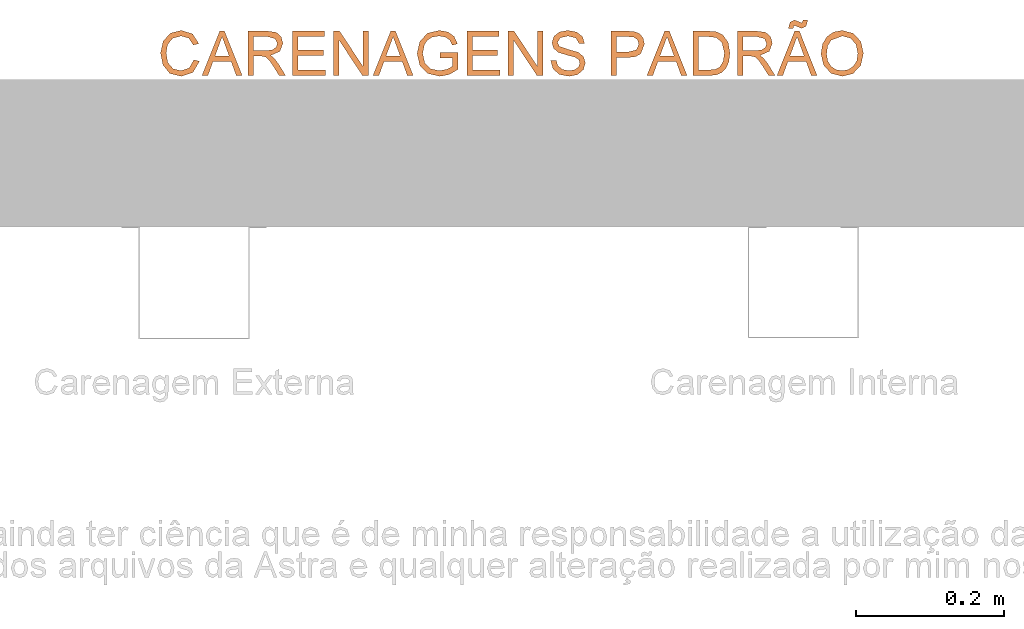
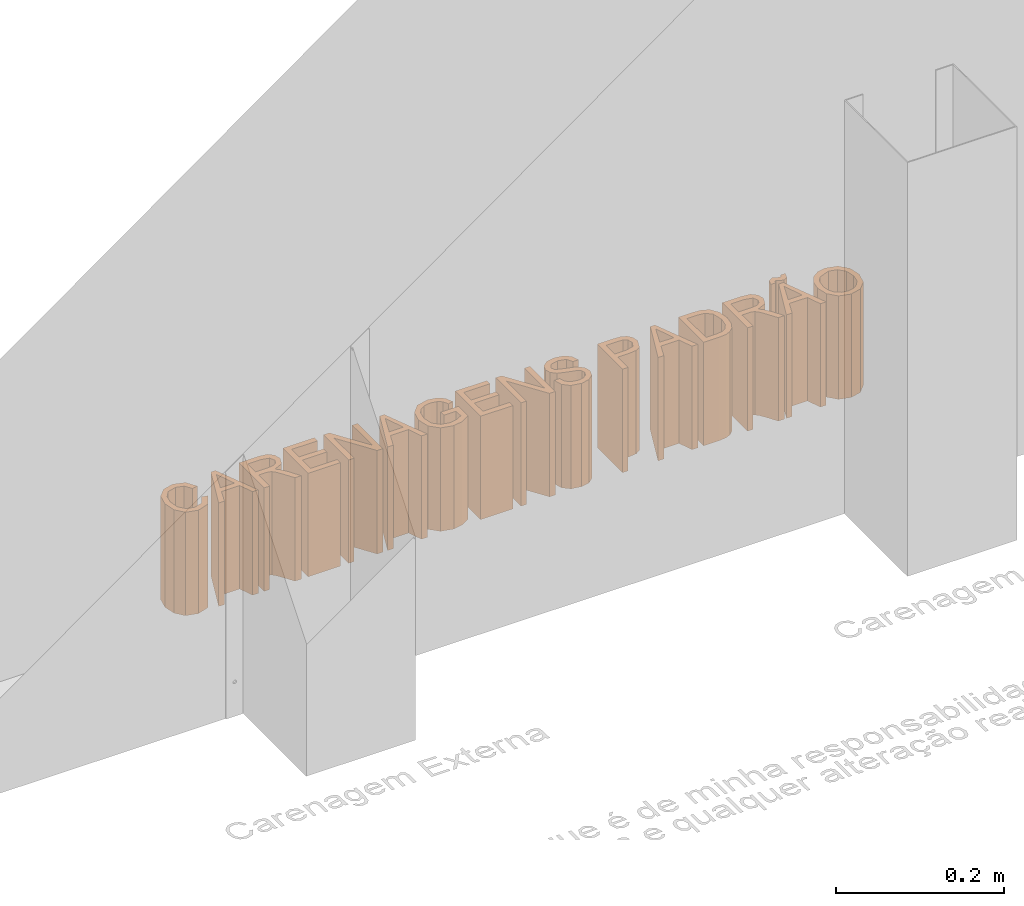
# One storey, part 3 of 5: 1 proxy.
"""IFC2X3 building model written with IfcOpenShell, lengths in millimetres."""

import ifcopenshell
import ifcopenshell.guid

model = None  # the IFC model being written
_history = None  # IfcOwnerHistory: only IFC2X3 demands one
_inside = {}  # id of a spatial element -> (the spatial element, [elements in it])
_under = {}  # id of a project, library or spatial element -> (it, [spatial elements below it])
_declared = {}  # id of a project -> (the project, [libraries it declares])
_typed = {}  # id of a type object -> (the type object, [elements of that type])
_made_of = {}  # id of a material, layer set ... -> (it, [elements and type objects made of it])


def new_model(schema):
    """Start an empty IFC model of exactly this schema.

    Asked for "IFC4X3", IfcOpenShell would pick the latest addendum, in which some entities
    have other attributes; the version numbers below select the first issue.
    IFC2X3 requires an IfcOwnerHistory on every rooted entity: one is made here for all.
    """
    global model, _history
    if schema == "IFC4X3":
        model = ifcopenshell.file(schema_version=(4, 3, 0, 0))
    else:
        model = ifcopenshell.file(schema=schema)
    _inside.clear()
    _under.clear()
    _declared.clear()
    _typed.clear()
    _made_of.clear()
    _history = None
    if model.schema == "IFC2X3":
        org = make("IfcOrganization", Name="unknown")
        user = make(
            "IfcPersonAndOrganization",
            ThePerson=make("IfcPerson", FamilyName="unknown"),
            TheOrganization=org,
        )
        app = make(
            "IfcApplication",
            ApplicationDeveloper=org,
            Version="unknown",
            ApplicationFullName="unknown",
            ApplicationIdentifier="unknown",
        )
        _history = make(
            "IfcOwnerHistory",
            OwningUser=user,
            OwningApplication=app,
            ChangeAction="ADDED",
            CreationDate=0,
        )
    return model


def make(cls, **values):
    """One entity of the class cls with the attributes given. An attribute that is None is left unset."""
    return model.create_entity(
        cls, **{name: value for name, value in values.items() if value is not None}
    )


def entity(cls, *values):
    """Any entity or typed value of the class cls, its attributes in the order of the schema. None: left unset."""
    e = model.create_entity(cls)
    for i, value in enumerate(values):
        if value is not None:
            e[i] = value
    return e


def rooted(cls, **values):
    """An entity with a GlobalId (a new one), such as an element, a storey or a relation."""
    return make(cls, GlobalId=ifcopenshell.guid.new(), OwnerHistory=_history, **values)


def si_unit(unit_type, name, prefix=None):
    """IfcSIUnit, for example si_unit("LENGTHUNIT", "METRE", prefix="MILLI")."""
    return make("IfcSIUnit", UnitType=unit_type, Prefix=prefix, Name=name)


def converted_unit(unit_type, name, factor, base, dimensions=None, offset=None):
    """IfcConversionBasedUnit, such as the inch: factor (a typed value) times the base unit."""
    return make(
        "IfcConversionBasedUnit"
        if offset is None
        else "IfcConversionBasedUnitWithOffset",
        ConversionOffset=offset,
        Dimensions=None
        if dimensions is None
        else entity("IfcDimensionalExponents", *dimensions),
        UnitType=unit_type,
        Name=name,
        ConversionFactor=make(
            "IfcMeasureWithUnit", ValueComponent=factor, UnitComponent=base
        ),
    )


def derived_unit(unit_type, elements):
    """IfcDerivedUnit: a product of units, each with its exponent."""
    return make(
        "IfcDerivedUnit",
        Elements=[
            make("IfcDerivedUnitElement", Unit=unit, Exponent=power)
            for unit, power in elements
        ],
        UnitType=unit_type,
    )


def assignment(units):
    """IfcUnitAssignment: the units of a project."""
    return None if units is None else make("IfcUnitAssignment", Units=units)


def point(xyz):
    """IfcCartesianPoint."""
    return None if xyz is None else make("IfcCartesianPoint", Coordinates=xyz)


def direction(xyz):
    """IfcDirection."""
    return None if xyz is None else make("IfcDirection", DirectionRatios=xyz)


def frame(location, z_axis=None, x_axis=None):
    """IfcAxis2Placement3D, a coordinate frame: its origin and axes. An axis left out is left unset."""
    return make(
        "IfcAxis2Placement3D",
        Location=point(location),
        Axis=direction(z_axis),
        RefDirection=direction(x_axis),
    )


def origin():
    """The frame at (0, 0, 0) with its axes left unset."""
    return frame((0.0, 0.0, 0.0))


def place(relative_to, where):
    """IfcLocalPlacement: puts the frame where relative to a parent placement (None: the world)."""
    return make(
        "IfcLocalPlacement", PlacementRelTo=relative_to, RelativePlacement=where
    )


def context(
    kind, dimensions, precision=None, world=None, true_north=None, identifier=None
):
    """IfcGeometricRepresentationContext, for example the 3D "Model" context."""
    return make(
        "IfcGeometricRepresentationContext",
        ContextIdentifier=identifier,
        ContextType=kind,
        CoordinateSpaceDimension=dimensions,
        Precision=precision,
        WorldCoordinateSystem=world,
        TrueNorth=true_north,
    )


def subcontext(parent, identifier, kind, view, scale=None):
    """IfcGeometricRepresentationSubContext, for example "Body" below "Model"."""
    return make(
        "IfcGeometricRepresentationSubContext",
        ContextIdentifier=identifier,
        ContextType=kind,
        ParentContext=parent,
        TargetScale=scale,
        TargetView=view,
    )


def project(units=None, contexts=None):
    """IfcProject with its units and contexts."""
    return rooted(
        "IfcProject",
        Name="project",
        RepresentationContexts=contexts,
        UnitsInContext=assignment(units),
    )


def spatial(cls, under=None, at=None, **own):
    """A site, building, storey or space (cls), placed at a placement, below another one or the project."""
    s = rooted(cls, ObjectPlacement=at, **own)
    if under is not None:
        _under.setdefault(under.id(), (under, []))[1].append(s)
    return s


def polyline(points):
    """IfcPolyline through the points."""
    return make("IfcPolyline", Points=[point(p) for p in points])


def outline(outer, holes=None, kind="AREA"):
    """IfcArbitraryClosedProfileDef: a profile drawn as a closed curve; with holes, ...WithVoids."""
    if holes is None:
        return make("IfcArbitraryClosedProfileDef", ProfileType=kind, OuterCurve=outer)
    return make(
        "IfcArbitraryProfileDefWithVoids",
        ProfileType=kind,
        OuterCurve=outer,
        InnerCurves=holes,
    )


def extrude(swept, where, along, depth):
    """IfcExtrudedAreaSolid: the profile swept, set in the frame where, extruded along a direction by depth."""
    return make(
        "IfcExtrudedAreaSolid",
        SweptArea=swept,
        Position=where,
        ExtrudedDirection=direction(along),
        Depth=depth,
    )


def shape(context_of_items, identifier, shape_type, items):
    """IfcShapeRepresentation: the items that make up one representation, for example the "Body"."""
    return make(
        "IfcShapeRepresentation",
        ContextOfItems=context_of_items,
        RepresentationIdentifier=identifier,
        RepresentationType=shape_type,
        Items=items,
    )


def made_of(thing, what):
    """Note that an element or type object is made of a material, layer set ...; save() writes the relation."""
    if what is not None:
        _made_of.setdefault(what.id(), (what, []))[1].append(thing)
    return thing


def type_object(cls, material=None, **own):
    """A type object (cls), such as IfcWallType, which elements share."""
    return made_of(rooted(cls, **own), material)


def element(
    cls,
    number,
    at=None,
    inside=None,
    cuts=None,
    type_object=None,
    material=None,
    context=None,
    identifier="Body",
    shape_type=None,
    held_by="IfcProductDefinitionShape",
    body=None,
    shapes=None,
    **own,
):
    """One element of the class cls, such as IfcWall. Its Tag is "e" and its number.

    at: its placement. inside: the storey or other place that contains it. cuts: it is an
    opening in that element (IfcRelVoidsElement). A single representation is given by context,
    identifier, shape_type and body (its items); several are given by shapes. held_by: the class
    of the entity that holds the representations. save() writes the other relations.
    """
    e = rooted(cls, Tag="e%d" % number, ObjectPlacement=at, **own)
    if body is not None:
        shapes = [shape(context, identifier, shape_type, body)]
    if shapes is not None:
        e.Representation = make(held_by, Representations=shapes)
    if inside is not None:
        _inside.setdefault(inside.id(), (inside, []))[1].append(e)
    if cuts is not None:
        rooted(
            "IfcRelVoidsElement", RelatingBuildingElement=cuts, RelatedOpeningElement=e
        )
    if type_object is not None:
        _typed.setdefault(type_object.id(), (type_object, []))[1].append(e)
    return made_of(e, material)


def aggregate(whole, parts):
    """IfcRelAggregates: a whole, such as a stair, and the parts it consists of."""
    return rooted("IfcRelAggregates", RelatingObject=whole, RelatedObjects=parts)


def save(model, path):
    """Write the relations noted so far, then the file.

    IfcRelAggregates (storeys below a building ...), IfcRelContainedInSpatialStructure (elements
    in a storey), IfcRelDefinesByType, IfcRelAssociatesMaterial and IfcRelDeclares: one each for
    every whole, place, type object, material and project.
    """
    for whole, parts in _under.values():
        aggregate(whole, parts)
    for where, things in _inside.values():
        rooted(
            "IfcRelContainedInSpatialStructure",
            RelatedElements=things,
            RelatingStructure=where,
        )
    for kind, things in _typed.values():
        rooted("IfcRelDefinesByType", RelatedObjects=things, RelatingType=kind)
    for what, things in _made_of.values():
        rooted("IfcRelAssociatesMaterial", RelatedObjects=things, RelatingMaterial=what)
    for by, libraries in _declared.values():
        rooted("IfcRelDeclares", RelatingContext=by, RelatedDefinitions=libraries)
    model.write(path)


model = new_model("IFC2X3")

# Units and contexts
model_context = context("Model", 3, precision=0.01, world=origin(), true_north=direction((6.12303176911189e-17, 1.0)))
body_context = subcontext(model_context, "Body", "Model", "MODEL_VIEW")
ifc_project = project(units=[si_unit("LENGTHUNIT", "METRE", prefix="MILLI"), si_unit("AREAUNIT", "SQUARE_METRE"), si_unit("VOLUMEUNIT", "CUBIC_METRE"), converted_unit("PLANEANGLEUNIT", "DEGREE", entity("IfcRatioMeasure", 0.0174532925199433), si_unit("PLANEANGLEUNIT", "RADIAN"), dimensions=[0, 0, 0, 0, 0, 0, 0]), si_unit("MASSUNIT", "GRAM", prefix="KILO"), derived_unit("MASSDENSITYUNIT", [(si_unit("MASSUNIT", "GRAM", prefix="KILO"), 1), (si_unit("LENGTHUNIT", "METRE"), -3)]), derived_unit("MOMENTOFINERTIAUNIT", [(si_unit("LENGTHUNIT", "METRE"), 4)]), si_unit("TIMEUNIT", "SECOND"), si_unit("FREQUENCYUNIT", "HERTZ"), si_unit("THERMODYNAMICTEMPERATUREUNIT", "DEGREE_CELSIUS"), derived_unit("THERMALTRANSMITTANCEUNIT", [(si_unit("MASSUNIT", "GRAM", prefix="KILO"), 1), (si_unit("THERMODYNAMICTEMPERATUREUNIT", "KELVIN"), -1), (si_unit("TIMEUNIT", "SECOND"), -3)]), derived_unit("VOLUMETRICFLOWRATEUNIT", [(si_unit("LENGTHUNIT", "METRE"), 3), (si_unit("TIMEUNIT", "SECOND"), -1)]), si_unit("ELECTRICCURRENTUNIT", "AMPERE"), si_unit("ELECTRICVOLTAGEUNIT", "VOLT"), si_unit("POWERUNIT", "WATT"), si_unit("FORCEUNIT", "NEWTON", prefix="KILO"), si_unit("ILLUMINANCEUNIT", "LUX"), si_unit("LUMINOUSFLUXUNIT", "LUMEN"), si_unit("LUMINOUSINTENSITYUNIT", "CANDELA"), derived_unit("USERDEFINED", [(si_unit("MASSUNIT", "GRAM", prefix="KILO"), -1), (si_unit("LENGTHUNIT", "METRE"), -2), (si_unit("TIMEUNIT", "SECOND"), 3), (si_unit("LUMINOUSFLUXUNIT", "LUMEN"), 1)]), derived_unit("LINEARVELOCITYUNIT", [(si_unit("LENGTHUNIT", "METRE"), 1), (si_unit("TIMEUNIT", "SECOND"), -1)]), si_unit("PRESSUREUNIT", "PASCAL"), derived_unit("USERDEFINED", [(si_unit("LENGTHUNIT", "METRE"), -2), (si_unit("MASSUNIT", "GRAM", prefix="KILO"), 1), (si_unit("TIMEUNIT", "SECOND"), -2)]), derived_unit("LINEARFORCEUNIT", [(si_unit("MASSUNIT", "GRAM", prefix="KILO"), 1), (si_unit("LENGTHUNIT", "METRE"), 1), (si_unit("TIMEUNIT", "SECOND"), -2), (si_unit("LENGTHUNIT", "METRE"), -1)]), derived_unit("PLANARFORCEUNIT", [(si_unit("MASSUNIT", "GRAM", prefix="KILO"), 1), (si_unit("LENGTHUNIT", "METRE"), 1), (si_unit("TIMEUNIT", "SECOND"), -2), (si_unit("LENGTHUNIT", "METRE"), -2)])], contexts=[model_context])

# Site, building, storey
site_placement = place(None, origin())
site = spatial("IfcSite", under=ifc_project, at=site_placement, Name="Default", CompositionType="ELEMENT")
building_placement = place(site_placement, origin())
building = spatial("IfcBuilding", under=site, at=building_placement, CompositionType="ELEMENT")
storey_placement = place(building_placement, origin())
storey = spatial("IfcBuildingStorey", under=building, at=storey_placement, Name="Vista Principal", CompositionType="ELEMENT", Elevation=0.0)

# Proxy
building_element_proxy_type = type_object("IfcBuildingElementProxyType", Name="Texto do modelo:TITULO", PredefinedType="NOTDEFINED")
proxy_placement = place(storey_placement, origin())
element("IfcBuildingElementProxy", 1, at=proxy_placement, inside=storey, type_object=building_element_proxy_type, Name="Texto do modelo:TITULO", ObjectType="Texto do modelo:TITULO", context=body_context, shape_type="SweptSolid", body=[
    extrude(outline(polyline([(-1.96637517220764, -21.5578853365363), (-4.04517097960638, -29.0556257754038), (13.5787768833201, -28.9024799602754), (25.9875489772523, -17.8466051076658), (30.3863007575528, -2.28527058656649), (25.0461970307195, 11.4068454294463), (12.6611194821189, 22.1868785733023), (-3.31113045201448, 27.2724931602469), (-17.5760288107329, 23.7825043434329), (-27.9485157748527, 13.0477677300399), (-31.4158880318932, -2.37093450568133), (-24.2169102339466, -16.3445019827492), (-18.8996598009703, -10.7129532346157), (-23.8398435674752, -0.732958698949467), (-21.2736630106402, 9.54099193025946), (-12.5963358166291, 18.1445595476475), (-1.77482770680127, 19.5936934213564), (8.88659743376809, 15.6663172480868), (18.9967957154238, 7.21622940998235), (22.6473113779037, -3.05658827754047), (19.8343482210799, -13.4345919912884), (10.8393534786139, -21.5578853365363), (-1.96637517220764, -21.5578853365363)])), frame((-10641.5519996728, 5801.23956122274, 0.0), z_axis=(0.0, 0.0, -1.0), x_axis=(-0.499291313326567, -0.866434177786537, 0.0)), (0.0, 0.0, -1.0), 150.0),
    extrude(outline(polyline([(-27.2655740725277, -19.7773360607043), (-19.3046076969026, -19.7773360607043), (-12.417856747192, -0.94177790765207), (12.4068202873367, -0.94177790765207), (19.3082865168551, -19.7773360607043), (27.2692528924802, -19.7773360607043), (3.2097704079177, 40.4964500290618), (-3.20609158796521, 40.4964500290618), (-27.2655740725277, -19.7773360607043)]), holes=[polyline([(-9.6513841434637, 6.59244535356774), (-3.75055694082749, 22.7056767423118), (0.00183940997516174, 32.9622267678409), (4.22512471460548, 21.410732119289), (9.65506296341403, 6.59244535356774), (-9.6513841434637, 6.59244535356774)])]), frame((-10583.7515511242, 5790.53151965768, 0.0)), (0.0, 0.0, 1.0), 150.0),
    extrude(outline(polyline([(-28.2905126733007, -27.015317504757), (-20.7562894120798, -27.015317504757), (-20.7562894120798, -0.645536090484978), (-11.6622464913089, -0.645536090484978), (-7.29180838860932, -0.910411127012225), (-3.70863775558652, -2.34515090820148), (0.27184543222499, -6.25205769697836), (5.93722815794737, -14.5220449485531), (13.7804722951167, -27.015317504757), (22.5360637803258, -27.015317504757), (12.4855276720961, -10.6813569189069), (6.37868655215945, -2.92640446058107), (2.0965401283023, 0.296241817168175), (14.7148925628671, 5.90276342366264), (18.7983827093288, 16.7626399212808), (16.333573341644, 25.8787557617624), (9.74112798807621, 31.6324301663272), (-2.31804381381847, 33.258468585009), (-28.2905126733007, 33.258468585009), (-28.2905126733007, -27.015317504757)]), holes=[polyline([(-20.7562894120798, 6.88868717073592), (-20.7562894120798, 25.7242453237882), (-1.99430765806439, 25.7242453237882), (8.07830136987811, 23.1196407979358), (11.2641594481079, 16.4830496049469), (9.5939751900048, 11.3694898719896), (4.70850229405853, 7.9555449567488), (-3.89257875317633, 6.88868717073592), (-20.7562894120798, 6.88868717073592)])]), frame((-10520.142527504, 5797.76950110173, 0.0)), (0.0, 0.0, 1.0), 150.0),
    extrude(outline(polyline([(-24.0153366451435, -30.4508190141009), (20.2482250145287, -30.4508190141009), (20.2482250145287, -22.91659575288), (-16.4811133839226, -22.91659575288), (-16.4811133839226, -3.13925969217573), (17.4228912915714, -3.13925969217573), (17.4228912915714, 4.39496356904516), (-16.4811133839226, 4.39496356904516), (-16.4811133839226, 22.2887438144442), (19.3064471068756, 22.2887438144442), (19.3064471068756, 29.8229670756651), (-24.0153366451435, 29.8229670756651), (-24.0153366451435, -30.4508190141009)])), frame((-10464.1439174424, 5801.20500261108, 0.0)), (0.0, 0.0, 1.0), 150.0),
    extrude(outline(polyline([(-23.5444476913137, -30.1383645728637), (-16.0102244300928, -30.1383645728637), (-16.0102244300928, 17.6274336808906), (15.4804743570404, -30.1383645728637), (23.5444476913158, -30.1383645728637), (23.5444476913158, 30.1354215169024), (16.0102244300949, 30.1354215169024), (16.0102244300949, -17.6156614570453), (-15.4804743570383, 30.1354215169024), (-23.5444476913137, 30.1354215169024), (-23.5444476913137, -30.1383645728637)])), frame((-10409.0499098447, 5800.89254816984, 0.0)), (0.0, 0.0, 1.0), 150.0),
    extrude(outline(polyline([(-27.2655740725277, -19.7773360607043), (-19.3046076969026, -19.7773360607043), (-12.417856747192, -0.94177790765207), (12.4068202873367, -0.94177790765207), (19.3082865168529, -19.7773360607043), (27.2692528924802, -19.7773360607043), (3.2097704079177, 40.4964500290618), (-3.20609158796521, 40.4964500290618), (-27.2655740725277, -19.7773360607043)]), holes=[polyline([(-9.6513841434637, 6.59244535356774), (-3.75055694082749, 22.7056767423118), (0.00183940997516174, 32.9622267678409), (4.22512471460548, 21.410732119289), (9.65506296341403, 6.59244535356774), (-9.6513841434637, 6.59244535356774)])]), frame((-10352.0741858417, 5790.53151965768, 0.0)), (0.0, 0.0, 1.0), 150.0),
    extrude(outline(polyline([(1.1477918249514, 7.70497124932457), (1.1477918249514, 0.170747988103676), (25.6340174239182, 0.170747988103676), (25.6340174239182, 22.6998413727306), (13.5454150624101, 29.8073215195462), (0.765194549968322, 32.1911968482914), (-15.3259639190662, 28.4020122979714), (-26.2447015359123, 17.4317712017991), (-29.9308791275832, 1.40683149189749), (-26.2594168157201, -14.9786325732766), (-15.7012035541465, -26.2726098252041), (0.16186807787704, -29.9661450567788), (11.9488072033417, -27.8250718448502), (20.2114368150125, -21.8653835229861), (24.7658159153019, -11.8957814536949), (17.8202038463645, -9.93864923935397), (14.3841860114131, -16.9063342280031), (8.51278936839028, -20.923605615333), (0.0441458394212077, -22.4319217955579), (-9.60172007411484, -20.8058833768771), (-16.1647348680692, -16.5384522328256), (-20.0422110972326, -10.7332743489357), (-22.3966558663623, 1.09781061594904), (-19.5639645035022, 14.2311978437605), (-11.3234078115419, 22.0891572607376), (0.16186807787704, 24.6569735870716), (10.4699215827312, 22.7219142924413), (18.0997941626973, 18.5942783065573), (18.0997941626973, 7.70497124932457), (1.1477918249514, 7.70497124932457)])), frame((-10289.6501294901, 5802.00360253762, 0.0), z_axis=(0.0, 0.0, -1.0), x_axis=(1.0, 0.0, 0.0)), (0.0, 0.0, -1.0), 150.0),
    extrude(outline(polyline([(-24.0153366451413, -30.4508190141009), (20.2482250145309, -30.4508190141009), (20.2482250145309, -22.91659575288), (-16.4811133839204, -22.91659575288), (-16.4811133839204, -3.13925969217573), (17.4228912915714, -3.13925969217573), (17.4228912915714, 4.39496356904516), (-16.4811133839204, 4.39496356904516), (-16.4811133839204, 22.2887438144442), (19.3064471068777, 22.2887438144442), (19.3064471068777, 29.8229670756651), (-24.0153366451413, 29.8229670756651), (-24.0153366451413, -30.4508190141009)])), frame((-10227.7576626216, 5801.20500261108, 0.0)), (0.0, 0.0, 1.0), 150.0),
    extrude(outline(polyline([(-23.5444476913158, -30.1383645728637), (-16.0102244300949, -30.1383645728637), (-16.0102244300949, 17.6274336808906), (15.4804743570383, -30.1383645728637), (23.5444476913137, -30.1383645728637), (23.5444476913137, 30.1354215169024), (16.0102244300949, 30.1354215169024), (16.0102244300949, -17.6156614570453), (-15.4804743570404, 30.1354215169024), (-23.5444476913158, 30.1354215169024), (-23.5444476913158, -30.1383645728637)])), frame((-10172.6636550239, 5800.89254816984, 0.0)), (0.0, 0.0, 1.0), 150.0),
    extrude(outline(polyline([(1.91984140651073, -25.726131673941), (13.8778964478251, -25.726131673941), (23.5282269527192, -19.6071907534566), (29.6236180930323, -7.34560521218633), (30.4644837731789, 4.26012664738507), (26.2476878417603, 13.525810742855), (18.3086413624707, 18.5754685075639), (9.47131699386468, 18.6339581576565), (1.61169330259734, 13.2781532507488), (-5.65333691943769, 1.47709674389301), (-13.0488914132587, -9.21665833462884), (-18.7282364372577, -10.1041618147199), (-23.8260712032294, -5.14639436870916), (-23.3849361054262, 5.93770216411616), (-17.9389340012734, 15.5767964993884), (-9.32987318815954, 17.5783738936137), (-7.28088839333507, 24.8286277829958), (-17.1702568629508, 24.5192483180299), (-25.4062152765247, 18.5893213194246), (-30.7152284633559, 7.70347391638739), (-31.7772773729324, -3.60272936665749), (-28.060567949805, -12.5818141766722), (-20.5648114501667, -17.4144445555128), (-12.7827635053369, -17.41936999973), (-5.64471739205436, -12.7771388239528), (1.14239082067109, -2.42370115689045), (6.894232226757, 7.35068897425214), (11.5792531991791, 11.3481487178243), (16.4437450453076, 11.2731896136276), (20.8537107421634, 8.29129489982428), (23.1103337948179, 2.37029526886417), (22.2933257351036, -5.57983345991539), (18.0873042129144, -13.7802363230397), (11.886477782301, -18.1903559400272), (3.96882620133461, -18.475877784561), (1.91984140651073, -25.726131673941)])), frame((-10114.5252662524, 5800.31718072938, 0.0), z_axis=(0.0, 0.0, 1.0), x_axis=(0.271957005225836, -0.962309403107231, 0.0)), (0.0, 0.0, 1.0), 150.0),
    extrude(outline(polyline([(-24.3996200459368, -36.3019821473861), (-16.8653967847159, -36.3019821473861), (-16.8653967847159, -11.8157565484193), (-1.54679050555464, -11.8157565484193), (9.15673614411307, -10.4840237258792), (15.9570348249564, -6.48882525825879), (20.8057195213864, 6.53419737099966), (19.0104553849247, 14.7526811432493), (14.2647776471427, 20.5799319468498), (6.94392594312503, 23.3979080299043), (-2.06182529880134, 23.97180394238), (-24.3996200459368, 23.97180394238), (-24.3996200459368, -36.3019821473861)]), holes=[polyline([(-16.8653967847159, -4.2815332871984), (-16.8653967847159, 16.4375806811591), (-1.28191546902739, 16.4375806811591), (6.2523077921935, 15.9225458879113), (11.3364369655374, 12.5086009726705), (13.2714962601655, 6.26932233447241), (9.98998886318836, -1.51506068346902), (-1.10533211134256, -4.2815332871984), (-16.8653967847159, -4.2815332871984)])]), frame((-10032.4253523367, 5807.05616574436, 0.0)), (0.0, 0.0, 1.0), 150.0),
    extrude(outline(polyline([(-27.2655740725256, -19.7773360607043), (-19.3046076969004, -19.7773360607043), (-12.4178567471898, -0.94177790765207), (12.4068202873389, -0.94177790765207), (19.3082865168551, -19.7773360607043), (27.2692528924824, -19.7773360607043), (3.20977040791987, 40.4964500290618), (-3.20609158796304, 40.4964500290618), (-27.2655740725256, -19.7773360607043)]), holes=[polyline([(-9.65138414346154, 6.59244535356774), (-3.75055694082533, 22.7056767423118), (0.00183940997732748, 32.9622267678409), (4.22512471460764, 21.410732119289), (9.65506296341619, 6.59244535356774), (-9.65138414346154, 6.59244535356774)])]), frame((-9981.01369022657, 5790.53151965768, 0.0)), (0.0, 0.0, 1.0), 150.0),
    extrude(outline(polyline([(-31.2227580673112, -28.6003725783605), (-9.429428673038, -28.6003725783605), (0.260583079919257, -27.570302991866), (7.46371254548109, -24.5463129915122), (12.9672271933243, -19.0795865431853), (17.0875055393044, -10.3019221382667), (18.6914710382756, 1.86025662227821), (16.3223109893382, 16.1929391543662), (9.18540028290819, 26.4936350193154), (0.326801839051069, 30.8052120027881), (-10.430067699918, 31.6734135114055), (-31.2227580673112, 31.6734135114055), (-31.2227580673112, -28.6003725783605)]), holes=[polyline([(-23.6885348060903, -21.0661493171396), (-23.6885348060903, 24.1391902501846), (-10.5625052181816, 24.1391902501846), (0.120787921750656, 22.9325373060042), (7.9419591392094, 16.2518002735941), (11.1572477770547, 1.97797886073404), (9.51649407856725, -9.41900534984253), (4.93268441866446, -16.9017251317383), (-0.659121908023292, -19.9772186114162), (-10.3564913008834, -21.0661493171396), (-23.6885348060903, -21.0661493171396)])]), frame((-9914.4724212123, 5799.35455617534, 0.0)), (0.0, 0.0, 1.0), 150.0),
    extrude(outline(polyline([(-28.2905126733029, -27.015317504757), (-20.756289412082, -27.015317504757), (-20.756289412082, -0.645536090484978), (-11.6622464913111, -0.645536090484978), (-7.29180838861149, -0.910411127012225), (-3.70863775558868, -2.34515090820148), (0.271845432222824, -6.25205769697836), (5.93722815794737, -14.5220449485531), (13.7804722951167, -27.015317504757), (22.5360637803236, -27.015317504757), (12.4855276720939, -10.6813569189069), (6.37868655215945, -2.92640446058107), (2.09654012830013, 0.296241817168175), (14.7148925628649, 5.90276342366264), (18.7983827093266, 16.7626399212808), (16.3335733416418, 25.8787557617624), (9.74112798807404, 31.6324301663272), (-2.31804381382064, 33.258468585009), (-28.2905126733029, 33.258468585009), (-28.2905126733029, -27.015317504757)]), holes=[polyline([(-20.756289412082, 6.88868717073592), (-20.756289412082, 25.7242453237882), (-1.99430765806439, 25.7242453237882), (8.07830136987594, 23.1196407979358), (11.2641594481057, 16.4830496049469), (9.5939751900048, 11.3694898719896), (4.70850229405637, 7.9555449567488), (-3.89257875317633, 6.88868717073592), (-20.756289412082, 6.88868717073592)])]), frame((-9857.13088051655, 5797.76950110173, 0.0)), (0.0, 0.0, 1.0), 150.0),
    extrude(outline(polyline([(-27.2655740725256, -19.7773360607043), (-19.3046076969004, -19.7773360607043), (-12.4178567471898, -0.94177790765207), (12.406820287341, -0.94177790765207), (19.3082865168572, -19.7773360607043), (27.2692528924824, -19.7773360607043), (3.20977040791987, 40.4964500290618), (-3.20609158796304, 40.4964500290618), (-27.2655740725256, -19.7773360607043)]), holes=[polyline([(-9.65138414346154, 6.59244535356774), (-3.75055694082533, 22.7056767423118), (0.00183940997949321, 32.9622267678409), (4.22512471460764, 21.410732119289), (9.65506296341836, 6.59244535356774), (-9.65138414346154, 6.59244535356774)])]), frame((-9804.90122149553, 5790.53151965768, 0.0)), (0.0, 0.0, 1.0), 150.0),
    extrude(outline(polyline([(-3.83694881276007, -27.0594719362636), (11.5553763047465, -27.0594719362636), (24.7203935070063, -19.6937969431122), (32.1054085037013, -5.83798393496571), (31.7550727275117, 9.21201010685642), (23.4503155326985, 21.8376736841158), (8.34059925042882, 29.0877482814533), (-8.16208263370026, 29.2822104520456), (-21.2398711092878, 21.8361226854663), (-28.4667651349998, 8.11009414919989), (-28.9850923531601, -3.60392864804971), (-24.858227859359, -13.9911160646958), (-16.3781779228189, -22.1200898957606), (-3.83694881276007, -27.0594719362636)]), holes=[polyline([(-2.079776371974, -19.732652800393), (-12.7163905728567, -15.6795891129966), (-18.9821270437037, -9.40634295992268), (-21.113610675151, 6.46766043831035), (-15.7927814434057, 16.5924846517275), (-6.09430249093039, 22.0437384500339), (6.59776915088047, 21.7576372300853), (15.9837500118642, 18.0690010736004), (22.1979105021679, 12.0397233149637), (25.1506215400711, 4.381105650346), (24.7522540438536, -4.19555022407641), (21.4121802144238, -11.972455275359), (15.4607662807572, -17.5760366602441), (7.44708862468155, -20.3736504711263), (-2.079776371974, -19.732652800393)])]), frame((-9745.1760040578, 5802.41014629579, 0.0), z_axis=(0.0, 0.0, 1.0), x_axis=(0.223707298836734, -0.974656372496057, 0.0)), (0.0, 0.0, 1.0), 150.0),
    extrude(outline(polyline([(-13.2101169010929, -5.60914933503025), (-6.61767154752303, -5.60914933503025), (-5.94076867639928, -2.79853089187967), (-4.14550453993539, -1.84203770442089), (-0.967004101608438, -3.31356568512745), (4.9926842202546, -5.60914933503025), (10.7684315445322, -2.78381561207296), (13.1596645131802, 5.6921855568), (6.56721915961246, 5.6921855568), (5.79466696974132, 2.68291083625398), (4.19805911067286, 1.92507392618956), (1.15199619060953, 3.26416438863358), (-4.8812685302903, 5.6921855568), (-10.8703874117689, 2.61669207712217), (-13.2101169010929, -5.60914933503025)])), frame((-9803.46148903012, 5840.40423065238, 0.0)), (0.0, 0.0, 1.0), 150.0),
])

save(model, "model.ifc")
